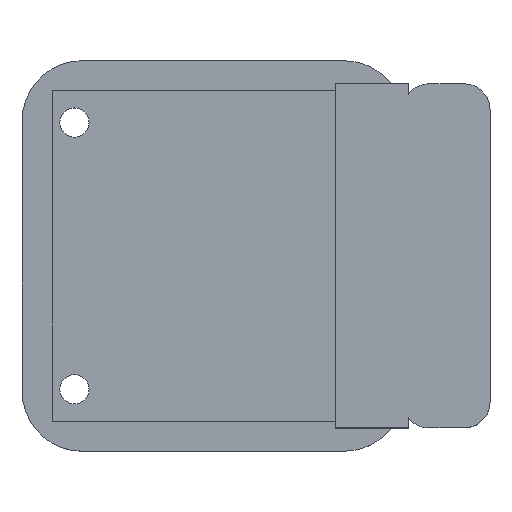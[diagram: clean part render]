
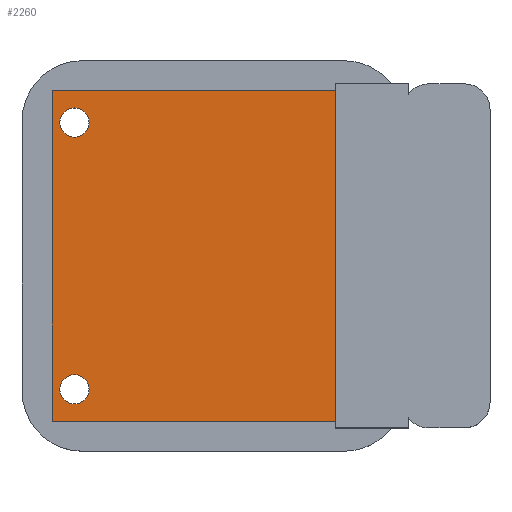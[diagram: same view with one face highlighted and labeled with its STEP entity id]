
A CAD part, top view. The second image highlights one B-rep face of the part: STEP entity #2260.
In plain terms, the highlighted planar face has unit normal (0, 0, 1).
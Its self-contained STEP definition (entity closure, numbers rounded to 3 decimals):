
#402 = PLANE('',#403);
#403 = AXIS2_PLACEMENT_3D('',#404,#405,#406);
#404 = CARTESIAN_POINT('',(-54.5,-20.,66.5));
#405 = DIRECTION('',(1.,0.,0.));
#406 = DIRECTION('',(0.,0.,1.));
#429 = PLANE('',#430);
#430 = AXIS2_PLACEMENT_3D('',#431,#432,#433);
#431 = CARTESIAN_POINT('',(-87.4,-19.2,69.5));
#432 = DIRECTION('',(0.,1.,0.));
#433 = DIRECTION('',(0.,0.,1.));
#457 = PLANE('',#458);
#458 = AXIS2_PLACEMENT_3D('',#459,#460,#461);
#459 = CARTESIAN_POINT('',(-87.4,-19.2,69.5));
#460 = DIRECTION('',(1.,0.,0.));
#461 = DIRECTION('',(0.,0.,1.));
#485 = PLANE('',#486);
#486 = AXIS2_PLACEMENT_3D('',#487,#488,#489);
#487 = CARTESIAN_POINT('',(-87.4,19.2,69.5));
#488 = DIRECTION('',(0.,1.,0.));
#489 = DIRECTION('',(0.,0.,1.));
#1369 = VERTEX_POINT('',#1370);
#1370 = CARTESIAN_POINT('',(-54.5,-19.2,73.5));
#1389 = EDGE_CURVE('',#1369,#1390,#1392,.T.);
#1390 = VERTEX_POINT('',#1391);
#1391 = CARTESIAN_POINT('',(-54.5,19.2,73.5));
#1392 = SURFACE_CURVE('',#1393,(#1397,#1403),.PCURVE_S1.);
#1393 = LINE('',#1394,#1395);
#1394 = CARTESIAN_POINT('',(-54.5,-19.6,73.5));
#1395 = VECTOR('',#1396,1.);
#1396 = DIRECTION('',(0.,1.,0.));
#1397 = PCURVE('',#402,#1398);
#1398 = DEFINITIONAL_REPRESENTATION('',(#1399),#1402);
#1399 = B_SPLINE_CURVE_WITH_KNOTS('',1,(#1400,#1401),.UNSPECIFIED.,.F.,
  .F.,(2,2),(0.4,38.8),.PIECEWISE_BEZIER_KNOTS.);
#1400 = CARTESIAN_POINT('',(7.,-0.8));
#1401 = CARTESIAN_POINT('',(7.,-39.2));
#1402 = ( GEOMETRIC_REPRESENTATION_CONTEXT(2) 
PARAMETRIC_REPRESENTATION_CONTEXT() REPRESENTATION_CONTEXT('2D SPACE',''
  ) );
#1403 = PCURVE('',#1404,#1409);
#1404 = PLANE('',#1405);
#1405 = AXIS2_PLACEMENT_3D('',#1406,#1407,#1408);
#1406 = CARTESIAN_POINT('',(-87.4,-19.2,73.5));
#1407 = DIRECTION('',(0.,0.,1.));
#1408 = DIRECTION('',(1.,0.,0.));
#1409 = DEFINITIONAL_REPRESENTATION('',(#1410),#1413);
#1410 = B_SPLINE_CURVE_WITH_KNOTS('',1,(#1411,#1412),.UNSPECIFIED.,.F.,
  .F.,(2,2),(0.4,38.8),.PIECEWISE_BEZIER_KNOTS.);
#1411 = CARTESIAN_POINT('',(32.9,0.));
#1412 = CARTESIAN_POINT('',(32.9,38.4));
#1413 = ( GEOMETRIC_REPRESENTATION_CONTEXT(2) 
PARAMETRIC_REPRESENTATION_CONTEXT() REPRESENTATION_CONTEXT('2D SPACE',''
  ) );
#1462 = VERTEX_POINT('',#1463);
#1463 = CARTESIAN_POINT('',(-87.4,19.2,73.5));
#1484 = EDGE_CURVE('',#1462,#1390,#1485,.T.);
#1485 = SURFACE_CURVE('',#1486,(#1490,#1497),.PCURVE_S1.);
#1486 = LINE('',#1487,#1488);
#1487 = CARTESIAN_POINT('',(-87.4,19.2,73.5));
#1488 = VECTOR('',#1489,1.);
#1489 = DIRECTION('',(1.,0.,0.));
#1490 = PCURVE('',#485,#1491);
#1491 = DEFINITIONAL_REPRESENTATION('',(#1492),#1496);
#1492 = LINE('',#1493,#1494);
#1493 = CARTESIAN_POINT('',(4.,0.));
#1494 = VECTOR('',#1495,1.);
#1495 = DIRECTION('',(0.,1.));
#1496 = ( GEOMETRIC_REPRESENTATION_CONTEXT(2) 
PARAMETRIC_REPRESENTATION_CONTEXT() REPRESENTATION_CONTEXT('2D SPACE',''
  ) );
#1497 = PCURVE('',#1404,#1498);
#1498 = DEFINITIONAL_REPRESENTATION('',(#1499),#1503);
#1499 = LINE('',#1500,#1501);
#1500 = CARTESIAN_POINT('',(0.,38.4));
#1501 = VECTOR('',#1502,1.);
#1502 = DIRECTION('',(1.,0.));
#1503 = ( GEOMETRIC_REPRESENTATION_CONTEXT(2) 
PARAMETRIC_REPRESENTATION_CONTEXT() REPRESENTATION_CONTEXT('2D SPACE',''
  ) );
#1510 = VERTEX_POINT('',#1511);
#1511 = CARTESIAN_POINT('',(-87.4,-19.2,73.5));
#1534 = EDGE_CURVE('',#1510,#1462,#1535,.T.);
#1535 = SURFACE_CURVE('',#1536,(#1540,#1547),.PCURVE_S1.);
#1536 = LINE('',#1537,#1538);
#1537 = CARTESIAN_POINT('',(-87.4,-19.2,73.5));
#1538 = VECTOR('',#1539,1.);
#1539 = DIRECTION('',(0.,1.,0.));
#1540 = PCURVE('',#457,#1541);
#1541 = DEFINITIONAL_REPRESENTATION('',(#1542),#1546);
#1542 = LINE('',#1543,#1544);
#1543 = CARTESIAN_POINT('',(4.,0.));
#1544 = VECTOR('',#1545,1.);
#1545 = DIRECTION('',(0.,-1.));
#1546 = ( GEOMETRIC_REPRESENTATION_CONTEXT(2) 
PARAMETRIC_REPRESENTATION_CONTEXT() REPRESENTATION_CONTEXT('2D SPACE',''
  ) );
#1547 = PCURVE('',#1404,#1548);
#1548 = DEFINITIONAL_REPRESENTATION('',(#1549),#1553);
#1549 = LINE('',#1550,#1551);
#1550 = CARTESIAN_POINT('',(0.,0.));
#1551 = VECTOR('',#1552,1.);
#1552 = DIRECTION('',(0.,1.));
#1553 = ( GEOMETRIC_REPRESENTATION_CONTEXT(2) 
PARAMETRIC_REPRESENTATION_CONTEXT() REPRESENTATION_CONTEXT('2D SPACE',''
  ) );
#1560 = EDGE_CURVE('',#1510,#1369,#1561,.T.);
#1561 = SURFACE_CURVE('',#1562,(#1566,#1573),.PCURVE_S1.);
#1562 = LINE('',#1563,#1564);
#1563 = CARTESIAN_POINT('',(-87.4,-19.2,73.5));
#1564 = VECTOR('',#1565,1.);
#1565 = DIRECTION('',(1.,0.,0.));
#1566 = PCURVE('',#429,#1567);
#1567 = DEFINITIONAL_REPRESENTATION('',(#1568),#1572);
#1568 = LINE('',#1569,#1570);
#1569 = CARTESIAN_POINT('',(4.,0.));
#1570 = VECTOR('',#1571,1.);
#1571 = DIRECTION('',(0.,1.));
#1572 = ( GEOMETRIC_REPRESENTATION_CONTEXT(2) 
PARAMETRIC_REPRESENTATION_CONTEXT() REPRESENTATION_CONTEXT('2D SPACE',''
  ) );
#1573 = PCURVE('',#1404,#1574);
#1574 = DEFINITIONAL_REPRESENTATION('',(#1575),#1579);
#1575 = LINE('',#1576,#1577);
#1576 = CARTESIAN_POINT('',(0.,0.));
#1577 = VECTOR('',#1578,1.);
#1578 = DIRECTION('',(1.,0.));
#1579 = ( GEOMETRIC_REPRESENTATION_CONTEXT(2) 
PARAMETRIC_REPRESENTATION_CONTEXT() REPRESENTATION_CONTEXT('2D SPACE',''
  ) );
#2260 = ADVANCED_FACE('',(#2261,#2267,#2298),#1404,.T.);
#2261 = FACE_BOUND('',#2262,.T.);
#2262 = EDGE_LOOP('',(#2263,#2264,#2265,#2266));
#2263 = ORIENTED_EDGE('',*,*,#1484,.F.);
#2264 = ORIENTED_EDGE('',*,*,#1534,.F.);
#2265 = ORIENTED_EDGE('',*,*,#1560,.T.);
#2266 = ORIENTED_EDGE('',*,*,#1389,.T.);
#2267 = FACE_BOUND('',#2268,.T.);
#2268 = EDGE_LOOP('',(#2269));
#2269 = ORIENTED_EDGE('',*,*,#2270,.F.);
#2270 = EDGE_CURVE('',#2271,#2271,#2273,.T.);
#2271 = VERTEX_POINT('',#2272);
#2272 = CARTESIAN_POINT('',(-83.1,-15.5,73.5));
#2273 = SURFACE_CURVE('',#2274,(#2279,#2286),.PCURVE_S1.);
#2274 = CIRCLE('',#2275,1.7);
#2275 = AXIS2_PLACEMENT_3D('',#2276,#2277,#2278);
#2276 = CARTESIAN_POINT('',(-84.8,-15.5,73.5));
#2277 = DIRECTION('',(0.,0.,1.));
#2278 = DIRECTION('',(1.,0.,-0.));
#2279 = PCURVE('',#1404,#2280);
#2280 = DEFINITIONAL_REPRESENTATION('',(#2281),#2285);
#2281 = CIRCLE('',#2282,1.7);
#2282 = AXIS2_PLACEMENT_2D('',#2283,#2284);
#2283 = CARTESIAN_POINT('',(2.6,3.7));
#2284 = DIRECTION('',(1.,0.));
#2285 = ( GEOMETRIC_REPRESENTATION_CONTEXT(2) 
PARAMETRIC_REPRESENTATION_CONTEXT() REPRESENTATION_CONTEXT('2D SPACE',''
  ) );
#2286 = PCURVE('',#2287,#2292);
#2287 = CYLINDRICAL_SURFACE('',#2288,1.7);
#2288 = AXIS2_PLACEMENT_3D('',#2289,#2290,#2291);
#2289 = CARTESIAN_POINT('',(-84.8,-15.5,54.5));
#2290 = DIRECTION('',(0.,0.,1.));
#2291 = DIRECTION('',(1.,0.,-0.));
#2292 = DEFINITIONAL_REPRESENTATION('',(#2293),#2297);
#2293 = LINE('',#2294,#2295);
#2294 = CARTESIAN_POINT('',(0.,19.));
#2295 = VECTOR('',#2296,1.);
#2296 = DIRECTION('',(1.,0.));
#2297 = ( GEOMETRIC_REPRESENTATION_CONTEXT(2) 
PARAMETRIC_REPRESENTATION_CONTEXT() REPRESENTATION_CONTEXT('2D SPACE',''
  ) );
#2298 = FACE_BOUND('',#2299,.T.);
#2299 = EDGE_LOOP('',(#2300));
#2300 = ORIENTED_EDGE('',*,*,#2301,.F.);
#2301 = EDGE_CURVE('',#2302,#2302,#2304,.T.);
#2302 = VERTEX_POINT('',#2303);
#2303 = CARTESIAN_POINT('',(-83.1,15.5,73.5));
#2304 = SURFACE_CURVE('',#2305,(#2310,#2317),.PCURVE_S1.);
#2305 = CIRCLE('',#2306,1.7);
#2306 = AXIS2_PLACEMENT_3D('',#2307,#2308,#2309);
#2307 = CARTESIAN_POINT('',(-84.8,15.5,73.5));
#2308 = DIRECTION('',(0.,0.,1.));
#2309 = DIRECTION('',(1.,0.,-0.));
#2310 = PCURVE('',#1404,#2311);
#2311 = DEFINITIONAL_REPRESENTATION('',(#2312),#2316);
#2312 = CIRCLE('',#2313,1.7);
#2313 = AXIS2_PLACEMENT_2D('',#2314,#2315);
#2314 = CARTESIAN_POINT('',(2.6,34.7));
#2315 = DIRECTION('',(1.,0.));
#2316 = ( GEOMETRIC_REPRESENTATION_CONTEXT(2) 
PARAMETRIC_REPRESENTATION_CONTEXT() REPRESENTATION_CONTEXT('2D SPACE',''
  ) );
#2317 = PCURVE('',#2318,#2323);
#2318 = CYLINDRICAL_SURFACE('',#2319,1.7);
#2319 = AXIS2_PLACEMENT_3D('',#2320,#2321,#2322);
#2320 = CARTESIAN_POINT('',(-84.8,15.5,54.5));
#2321 = DIRECTION('',(0.,0.,1.));
#2322 = DIRECTION('',(1.,0.,-0.));
#2323 = DEFINITIONAL_REPRESENTATION('',(#2324),#2328);
#2324 = LINE('',#2325,#2326);
#2325 = CARTESIAN_POINT('',(0.,19.));
#2326 = VECTOR('',#2327,1.);
#2327 = DIRECTION('',(1.,0.));
#2328 = ( GEOMETRIC_REPRESENTATION_CONTEXT(2) 
PARAMETRIC_REPRESENTATION_CONTEXT() REPRESENTATION_CONTEXT('2D SPACE',''
  ) );
